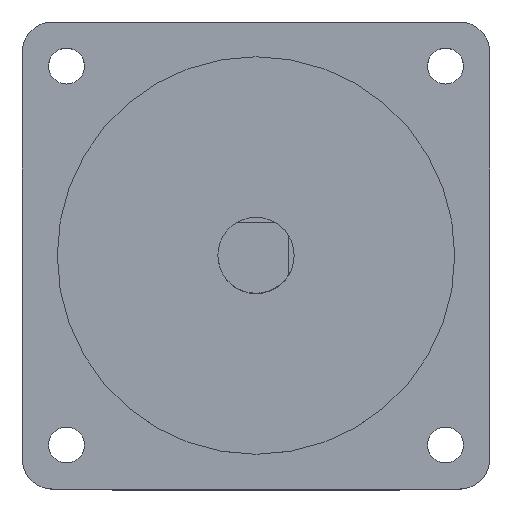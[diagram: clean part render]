
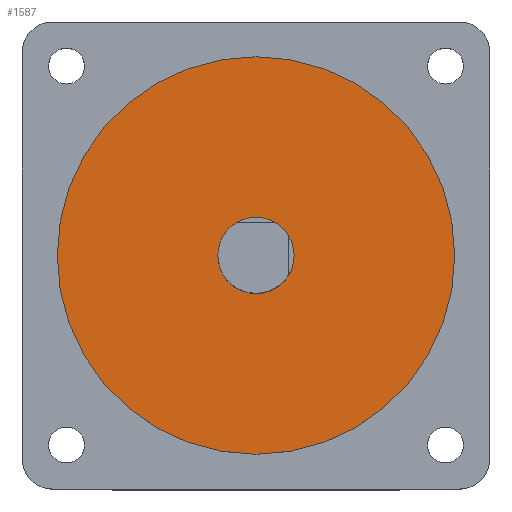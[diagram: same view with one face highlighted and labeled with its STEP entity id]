
A CAD part, top view. The second image highlights one B-rep face of the part: STEP entity #1587.
In plain terms, the highlighted planar face has unit normal (0, 0, 1).
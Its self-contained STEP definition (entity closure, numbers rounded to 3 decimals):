
#105 = EDGE_CURVE ( 'NONE', #3437, #3022, #3333, .T. ) ;
#145 = CARTESIAN_POINT ( 'NONE',  ( 36.513, 0., 2. ) ) ;
#195 = CARTESIAN_POINT ( 'NONE',  ( -36.513, 0., 2. ) ) ;
#255 = CIRCLE ( 'NONE', #3552, 7. ) ;
#448 = FACE_OUTER_BOUND ( 'NONE', #3593, .T. ) ;
#514 = EDGE_CURVE ( 'NONE', #3718, #2113, #2480, .T. ) ;
#691 = ORIENTED_EDGE ( 'NONE', *, *, #514, .T. ) ;
#959 = CARTESIAN_POINT ( 'NONE',  ( 0., 0., 2. ) ) ;
#1198 = CARTESIAN_POINT ( 'NONE',  ( 7., 0., 2. ) ) ;
#1231 = DIRECTION ( 'NONE',  ( 0., 0., -1. ) ) ;
#1246 = ORIENTED_EDGE ( 'NONE', *, *, #105, .T. ) ;
#1249 = DIRECTION ( 'NONE',  ( 0., 0., 1. ) ) ;
#1255 = AXIS2_PLACEMENT_3D ( 'NONE', #959, #1249, #3268 ) ;
#1302 = CARTESIAN_POINT ( 'NONE',  ( 0., 0., 2. ) ) ;
#1422 = CIRCLE ( 'NONE', #1425, 36.513 ) ;
#1425 = AXIS2_PLACEMENT_3D ( 'NONE', #1302, #3320, #1595 ) ;
#1562 = DIRECTION ( 'NONE',  ( 1., 0., 0. ) ) ;
#1581 = DIRECTION ( 'NONE',  ( 0., 0., 1. ) ) ;
#1587 = ADVANCED_FACE ( 'NONE', ( #448, #2677 ), #3556, .T. ) ;
#1589 = AXIS2_PLACEMENT_3D ( 'NONE', #3391, #3373, #3360 ) ;
#1595 = DIRECTION ( 'NONE',  ( 1., 0., 0. ) ) ;
#1794 = CARTESIAN_POINT ( 'NONE',  ( 0., 0., 2. ) ) ;
#2113 = VERTEX_POINT ( 'NONE', #195 ) ;
#2125 = CARTESIAN_POINT ( 'NONE',  ( -7., 0., 2. ) ) ;
#2126 = ORIENTED_EDGE ( 'NONE', *, *, #2701, .T. ) ;
#2480 = CIRCLE ( 'NONE', #3177, 36.513 ) ;
#2561 = EDGE_LOOP ( 'NONE', ( #2126, #1246 ) ) ;
#2590 = EDGE_CURVE ( 'NONE', #2113, #3718, #1422, .T. ) ;
#2677 = FACE_BOUND ( 'NONE', #2561, .T. ) ;
#2701 = EDGE_CURVE ( 'NONE', #3022, #3437, #255, .T. ) ;
#2970 = CARTESIAN_POINT ( 'NONE',  ( 0., 0., 2. ) ) ;
#3022 = VERTEX_POINT ( 'NONE', #2125 ) ;
#3177 = AXIS2_PLACEMENT_3D ( 'NONE', #1794, #1581, #1562 ) ;
#3253 = DIRECTION ( 'NONE',  ( 1., 0., 0. ) ) ;
#3268 = DIRECTION ( 'NONE',  ( 1., 0., 0. ) ) ;
#3320 = DIRECTION ( 'NONE',  ( 0., 0., 1. ) ) ;
#3333 = CIRCLE ( 'NONE', #1589, 7. ) ;
#3360 = DIRECTION ( 'NONE',  ( 1., 0., 0. ) ) ;
#3373 = DIRECTION ( 'NONE',  ( 0., 0., -1. ) ) ;
#3391 = CARTESIAN_POINT ( 'NONE',  ( 0., 0., 2. ) ) ;
#3437 = VERTEX_POINT ( 'NONE', #1198 ) ;
#3507 = ORIENTED_EDGE ( 'NONE', *, *, #2590, .T. ) ;
#3552 = AXIS2_PLACEMENT_3D ( 'NONE', #2970, #1231, #3253 ) ;
#3556 = PLANE ( 'NONE',  #1255 ) ;
#3593 = EDGE_LOOP ( 'NONE', ( #3507, #691 ) ) ;
#3718 = VERTEX_POINT ( 'NONE', #145 ) ;
